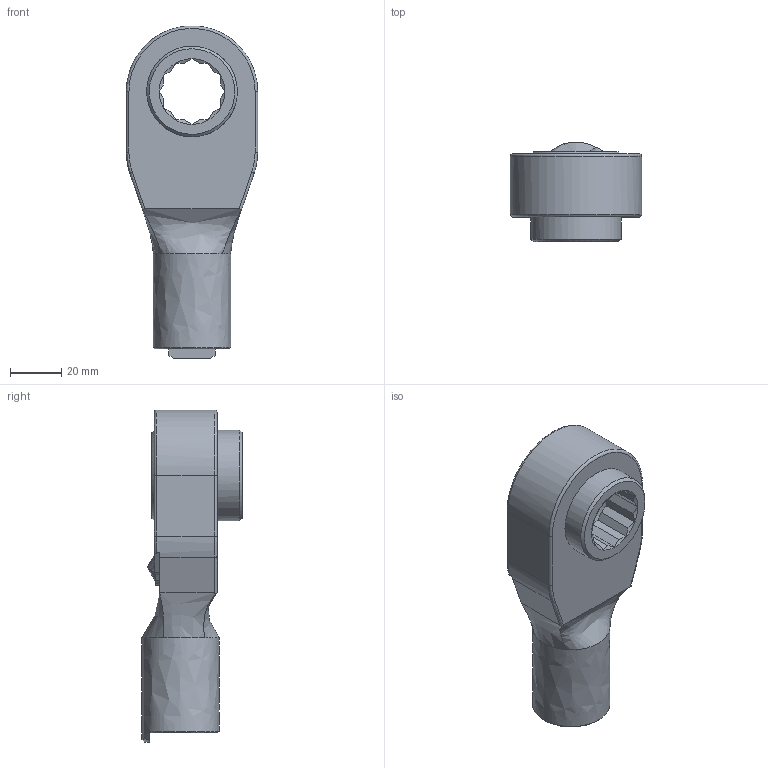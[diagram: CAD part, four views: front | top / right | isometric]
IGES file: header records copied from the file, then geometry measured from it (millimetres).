
Global section: file name: RQH22DX22; native system: Autodesk Inventor 2017; preprocessor: unknown; author: q603; date: 20170209.105834; units: millimetre
Bounding box: 51 x 38.9 x 128.96 mm (x, y, z)
Volume: 100240.6 mm3; surface area: 21718.9 mm2
Topology: 1 solids, 1 shells, 115 faces, 327 edges, 214 vertices
Faces by surface type: bspline 115
